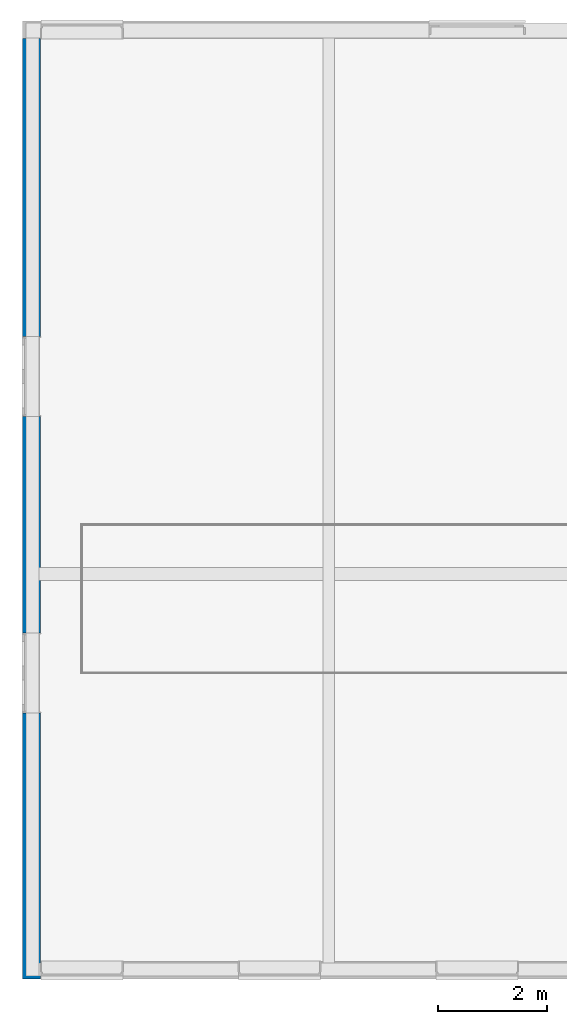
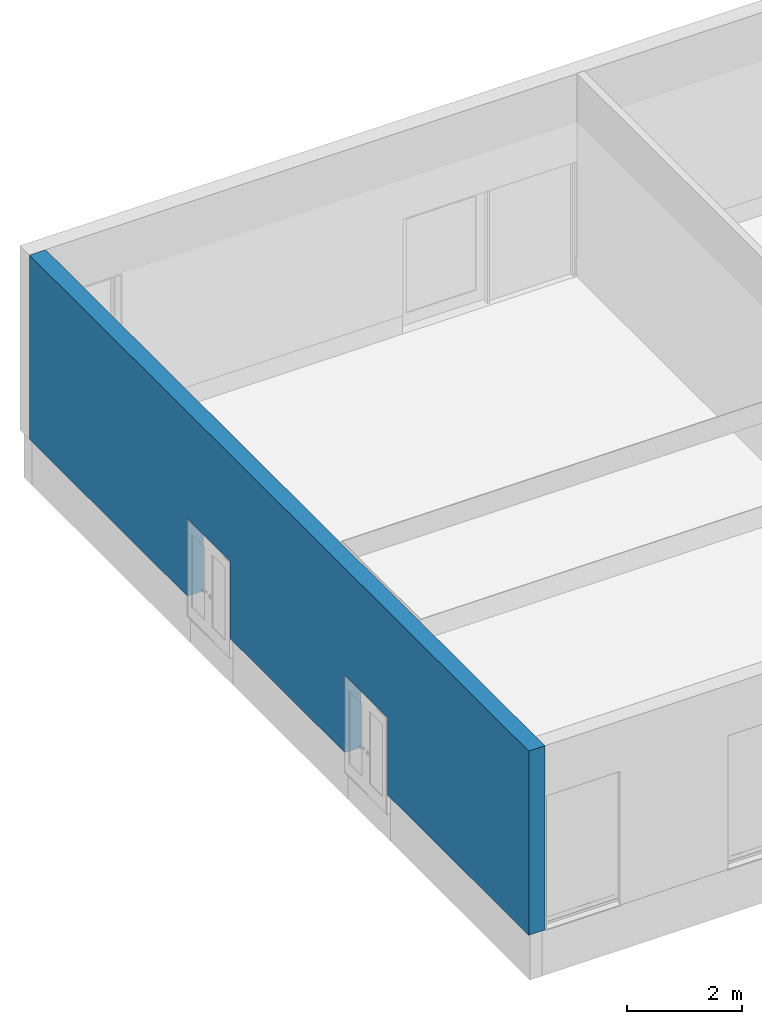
# One storey, part 6 of 22: 1 wall, 3 openings.
"""IFC4X3 building model written with IfcOpenShell, lengths in millimetres."""

from ifc_helpers import new_model, entity, si_unit, converted_unit, derived_unit, direction, frame, frame_2d, origin, place, context, subcontext, project, spatial, rectangle, extrude, faceted_brep, material, layer, layer_set, type_object, element, save


model = new_model("IFC4X3")

# Units and contexts
model_context = context("Model", 3, precision=0.01, world=origin(), true_north=direction((6.12303176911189e-17, 1.0)))
body_context = subcontext(model_context, "Body", "Model", "MODEL_VIEW")
ifc_project = project(units=[si_unit("LENGTHUNIT", "METRE", prefix="MILLI"), si_unit("AREAUNIT", "SQUARE_METRE"), si_unit("VOLUMEUNIT", "CUBIC_METRE"), converted_unit("PLANEANGLEUNIT", "DEGREE", entity("IfcPlaneAngleMeasure", 0.0174532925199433), si_unit("PLANEANGLEUNIT", "RADIAN"), dimensions=[0, 0, 0, 0, 0, 0, 0]), si_unit("MASSUNIT", "GRAM", prefix="KILO"), derived_unit("MASSDENSITYUNIT", [(si_unit("MASSUNIT", "GRAM", prefix="KILO"), 1), (si_unit("LENGTHUNIT", "METRE"), -3)]), derived_unit("IONCONCENTRATIONUNIT", [(si_unit("MASSUNIT", "GRAM", prefix="KILO"), 1), (si_unit("LENGTHUNIT", "METRE"), -3)]), derived_unit("MOMENTOFINERTIAUNIT", [(si_unit("LENGTHUNIT", "METRE"), 4)]), si_unit("TIMEUNIT", "SECOND"), si_unit("FREQUENCYUNIT", "HERTZ"), si_unit("THERMODYNAMICTEMPERATUREUNIT", "DEGREE_CELSIUS"), derived_unit("THERMALTRANSMITTANCEUNIT", [(si_unit("MASSUNIT", "GRAM", prefix="KILO"), 1), (si_unit("THERMODYNAMICTEMPERATUREUNIT", "KELVIN"), -1), (si_unit("TIMEUNIT", "SECOND"), -3)]), derived_unit("THERMALCONDUCTANCEUNIT", [(si_unit("MASSUNIT", "GRAM", prefix="KILO"), 1), (si_unit("THERMODYNAMICTEMPERATUREUNIT", "KELVIN"), -1), (si_unit("TIMEUNIT", "SECOND"), -3), (si_unit("LENGTHUNIT", "METRE"), 1)]), derived_unit("VOLUMETRICFLOWRATEUNIT", [(si_unit("LENGTHUNIT", "METRE", prefix="DECI"), 3), (si_unit("TIMEUNIT", "SECOND"), -1)]), derived_unit("MASSFLOWRATEUNIT", [(si_unit("MASSUNIT", "GRAM", prefix="KILO"), 1), (si_unit("TIMEUNIT", "SECOND"), -1)]), derived_unit("ROTATIONALFREQUENCYUNIT", [(si_unit("TIMEUNIT", "SECOND"), -1)]), si_unit("ELECTRICCURRENTUNIT", "AMPERE"), si_unit("ELECTRICVOLTAGEUNIT", "VOLT"), si_unit("POWERUNIT", "WATT"), si_unit("FORCEUNIT", "NEWTON", prefix="KILO"), si_unit("ILLUMINANCEUNIT", "LUX"), si_unit("LUMINOUSFLUXUNIT", "LUMEN"), si_unit("LUMINOUSINTENSITYUNIT", "CANDELA"), si_unit("ENERGYUNIT", "JOULE"), derived_unit("USERDEFINED", [(si_unit("MASSUNIT", "GRAM", prefix="KILO"), -1), (si_unit("LENGTHUNIT", "METRE"), -2), (si_unit("TIMEUNIT", "SECOND"), 3), (si_unit("LUMINOUSFLUXUNIT", "LUMEN"), 1)]), derived_unit("USERDEFINED", [(si_unit("MASSUNIT", "GRAM", prefix="KILO"), 1), (si_unit("TIMEUNIT", "SECOND"), -3), (si_unit("LENGTHUNIT", "METRE"), 3), (si_unit("ELECTRICCURRENTUNIT", "AMPERE"), -2)]), derived_unit("SOUNDPOWERUNIT", [(si_unit("MASSUNIT", "GRAM", prefix="KILO"), 1), (si_unit("TIMEUNIT", "SECOND"), -3), (si_unit("LENGTHUNIT", "METRE"), 2)]), derived_unit("SOUNDPRESSUREUNIT", [(si_unit("MASSUNIT", "GRAM", prefix="KILO"), 1), (si_unit("LENGTHUNIT", "METRE"), -1), (si_unit("TIMEUNIT", "SECOND"), -2)]), derived_unit("LINEARVELOCITYUNIT", [(si_unit("LENGTHUNIT", "METRE"), 1), (si_unit("TIMEUNIT", "SECOND"), -1)]), si_unit("PRESSUREUNIT", "PASCAL"), derived_unit("USERDEFINED", [(si_unit("MASSUNIT", "GRAM", prefix="KILO"), 1), (si_unit("LENGTHUNIT", "METRE"), -2), (si_unit("TIMEUNIT", "SECOND"), -2)]), derived_unit("LINEARFORCEUNIT", [(si_unit("MASSUNIT", "GRAM", prefix="KILO"), 1), (si_unit("TIMEUNIT", "SECOND"), -2)]), derived_unit("PLANARFORCEUNIT", [(si_unit("MASSUNIT", "GRAM", prefix="KILO"), 1), (si_unit("LENGTHUNIT", "METRE"), -1), (si_unit("TIMEUNIT", "SECOND"), -2)]), derived_unit("SPECIFICHEATCAPACITYUNIT", [(si_unit("THERMODYNAMICTEMPERATUREUNIT", "KELVIN"), -1), (si_unit("LENGTHUNIT", "METRE"), 2), (si_unit("TIMEUNIT", "SECOND"), -2)]), derived_unit("HEATFLUXDENSITYUNIT", [(si_unit("MASSUNIT", "GRAM", prefix="KILO"), 1), (si_unit("TIMEUNIT", "SECOND"), -3)]), derived_unit("HEATINGVALUEUNIT", [(si_unit("LENGTHUNIT", "METRE"), 2), (si_unit("TIMEUNIT", "SECOND"), -2)]), derived_unit("VAPORPERMEABILITYUNIT", [(si_unit("LENGTHUNIT", "METRE"), -1), (si_unit("TIMEUNIT", "SECOND"), 1)]), derived_unit("DYNAMICVISCOSITYUNIT", [(si_unit("MASSUNIT", "GRAM", prefix="KILO"), 1), (si_unit("TIMEUNIT", "SECOND"), -1), (si_unit("LENGTHUNIT", "METRE"), -1)]), derived_unit("THERMALEXPANSIONCOEFFICIENTUNIT", [(si_unit("THERMODYNAMICTEMPERATUREUNIT", "KELVIN"), -1)]), derived_unit("MODULUSOFELASTICITYUNIT", [(si_unit("MASSUNIT", "GRAM", prefix="KILO"), 1), (si_unit("LENGTHUNIT", "METRE"), -1), (si_unit("TIMEUNIT", "SECOND"), -2)]), derived_unit("ISOTHERMALMOISTURECAPACITYUNIT", [(si_unit("MASSUNIT", "GRAM", prefix="KILO"), -1), (si_unit("LENGTHUNIT", "METRE"), 3)]), derived_unit("MOISTUREDIFFUSIVITYUNIT", [(si_unit("TIMEUNIT", "SECOND"), -1), (si_unit("LENGTHUNIT", "METRE"), 2)]), derived_unit("AREADENSITYUNIT", [(si_unit("MASSUNIT", "GRAM", prefix="KILO"), 1), (si_unit("LENGTHUNIT", "METRE"), 2)]), derived_unit("MASSPERLENGTHUNIT", [(si_unit("MASSUNIT", "GRAM", prefix="KILO"), 1), (si_unit("LENGTHUNIT", "METRE"), -1)]), derived_unit("THERMALRESISTANCEUNIT", [(si_unit("MASSUNIT", "GRAM", prefix="KILO"), -1), (si_unit("TIMEUNIT", "SECOND"), 3), (si_unit("THERMODYNAMICTEMPERATUREUNIT", "KELVIN"), 1)]), derived_unit("ACCELERATIONUNIT", [(si_unit("LENGTHUNIT", "METRE"), 1), (si_unit("TIMEUNIT", "SECOND"), -2)]), derived_unit("ANGULARVELOCITYUNIT", [(si_unit("TIMEUNIT", "SECOND"), -1), (si_unit("PLANEANGLEUNIT", "RADIAN"), 1)]), derived_unit("LINEARSTIFFNESSUNIT", [(si_unit("MASSUNIT", "GRAM", prefix="KILO"), 1), (si_unit("TIMEUNIT", "SECOND"), -2)]), derived_unit("WARPINGCONSTANTUNIT", [(si_unit("LENGTHUNIT", "METRE"), 6)]), derived_unit("LINEARMOMENTUNIT", [(si_unit("MASSUNIT", "GRAM", prefix="KILO"), 1), (si_unit("LENGTHUNIT", "METRE"), 1), (si_unit("TIMEUNIT", "SECOND"), -2)]), derived_unit("TORQUEUNIT", [(si_unit("MASSUNIT", "GRAM", prefix="KILO"), 1), (si_unit("LENGTHUNIT", "METRE"), 2), (si_unit("TIMEUNIT", "SECOND"), -2)])], contexts=[model_context])

# Site, building, storey
site_placement = place(None, origin())
site = spatial("IfcSite", under=ifc_project, at=site_placement, Name="Default", CompositionType="ELEMENT")
building_placement = place(site_placement, origin())
building = spatial("IfcBuilding", under=site, at=building_placement, Name="事務所ビル", CompositionType="ELEMENT")
storey_placement = place(building_placement, origin())
storey = spatial("IfcBuildingStorey", under=building, at=storey_placement, Name="1FL", CompositionType="ELEMENT", Elevation=0.0)

# Wall, openings
ifc_material_1 = material(Name="<Unnamed>")
ifc_layer_1 = layer(ifc_material_1, 46.0, Name="Layer")
ifc_material_2 = material(Name="合板", Category="一般")
ifc_layer_2 = layer(ifc_material_2, 12.0, Name="合板", Category="一般")
ifc_material_3 = material(Name="天然木材", Category="一般")
ifc_layer_3 = layer(ifc_material_3, 240.0, Name="天然木材", Category="一般")
ifc_layer_4 = layer(ifc_material_2, 12.0, Name="合板", Category="一般")
ifc_material_4 = material(Name="せっこうボード", Category="一般")
ifc_layer_5 = layer(ifc_material_4, 15.0, Name="せっこうボード", Category="一般")
ifc_layer_set = layer_set([ifc_layer_1, ifc_layer_2, ifc_layer_3, ifc_layer_4, ifc_layer_5], Name="標準壁:外装材46_構造用合板12_木240_構造用合板12_GB-R15")
wall_type = type_object("IfcWallType", Name="標準壁:外装材46_構造用合板12_木240_構", PredefinedType="STANDARD", material=ifc_layer_set)
wall_placement = place(storey_placement, frame((-15.5000000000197, -178.0, 400.0), z_axis=(0.0, 0.0, 1.0), x_axis=(0.0, 1.0, 0.0)))
wall = element("IfcWall", 1, at=wall_placement, inside=storey, type_object=wall_type, material=ifc_layer_set, Name="標準壁:外装材46_構造用合板12_木240_構造用合板12_GB-R15", ObjectType="標準壁:外装材46_構造用合板12_木240_構造用合板12_GB-R15", PredefinedType="NOTDEFINED", context=body_context, shape_type="SweptSolid", body=[
    extrude(rectangle(XDim=17320.9999999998, YDim=325.0, at=frame_2d((8660.49999999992, 0.0), x_axis=(1.0, 0.0))), origin(), (0.0, 0.0, 1.0), 3900.0),
])
opening_1_placement = place(wall_placement, frame((178.0, -15.5000000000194, 120.0)))
element("IfcOpeningElement", 2, at=opening_1_placement, cuts=wall, Name="標準壁:外装材46_構造用合板12_木240_構造用合板12_GB-R15", PredefinedType="OPENING", context=body_context, shape_type="Brep", body=[
    faceted_brep([(157.0, -1675.0, -35.0), (157.0, -1675.0, 2735.0), (-48.0, -1675.0, 2735.0), (-48.0, -1675.0, -35.0), (157.0, -145.0, -35.0), (-48.0, -145.0, -35.0), (-48.0, -145.0, 2735.0), (157.0, -145.0, 2735.0), (-48.0, -1665.0, -35.0), (-48.0, -155.0, -35.0), (-48.0, -155.0, 2730.0), (-48.0, -1665.0, 2730.0), (-118.0, -1665.0, 2730.0), (-118.0, -1665.0, -115.769230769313), (-48.0, -1665.0, -105.0), (-48.0, -155.0, -105.0), (-118.0, -155.0, -115.769230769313), (-118.0, -155.0, 2730.0), (-118.0, -1645.0, -115.769230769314), (-178.0, -1645.0, -125.0), (-178.0, -175.0, -125.0), (-118.0, -175.0, -115.769230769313), (-118.0, -175.0, 2710.0), (-118.0, -1645.0, 2710.0), (-178.0, -1645.0, 2710.0), (-178.0, -175.0, 2710.0)], [[[0, 1, 2, 3]], [[4, 5, 6, 7]], [[0, 3, 8, 9, 5, 4]], [[3, 2, 6, 5, 9, 10, 11, 8]], [[2, 1, 7, 6]], [[1, 0, 4, 7]], [[11, 12, 13, 14, 8]], [[15, 16, 17, 10, 9]], [[14, 13, 18, 19, 20, 21, 16, 15]], [[13, 12, 17, 16, 21, 22, 23, 18]], [[12, 11, 10, 17]], [[14, 15, 9, 8]], [[23, 24, 19, 18]], [[21, 20, 25, 22]], [[19, 24, 25, 20]], [[24, 23, 22, 25]]]),
])
opening_2_placement = place(wall_placement, frame((10358.0, -162.500000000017, -415.0)))
element("IfcOpeningElement", 3, at=opening_2_placement, cuts=wall, Name="鋼製_大枠_両開き_框:1400x2000:1", PredefinedType="OPENING", context=body_context, shape_type="SweptSolid", body=[
    extrude(rectangle(XDim=2055.00000000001, YDim=1480.0, at=frame_2d((1027.5, 739.999999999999), x_axis=(-1.0, 0.0))), frame((0.0, 0.0, 0.0), z_axis=(0.0, 1.0, 0.0), x_axis=(0.0, 0.0, 1.0)), (0.0, 0.0, 1.0), 325.0),
])
opening_3_placement = place(wall_placement, frame((4898.0, -162.500000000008, -415.0)))
element("IfcOpeningElement", 4, at=opening_3_placement, cuts=wall, Name="鋼製_大枠_両開き_框:1400x2000:1", PredefinedType="OPENING", context=body_context, shape_type="SweptSolid", body=[
    extrude(rectangle(XDim=2055.00000000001, YDim=1480.0, at=frame_2d((1027.5, 739.999999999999), x_axis=(-1.0, 0.0))), frame((0.0, 0.0, 0.0), z_axis=(0.0, 1.0, 0.0), x_axis=(0.0, 0.0, 1.0)), (0.0, 0.0, 1.0), 325.0),
])

save(model, "model.ifc")
